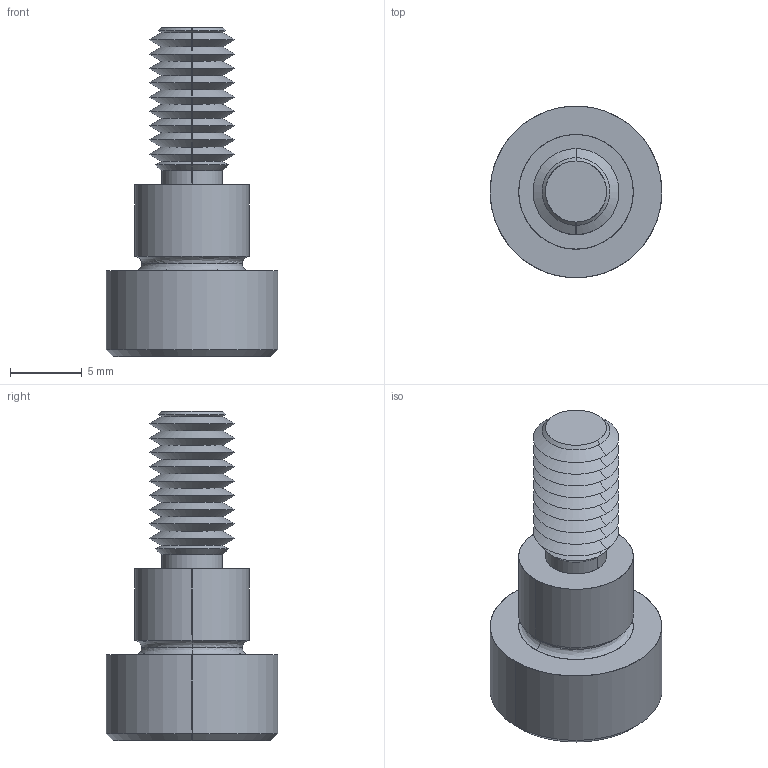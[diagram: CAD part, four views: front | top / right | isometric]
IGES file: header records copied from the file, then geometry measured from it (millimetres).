
Start section: SolidWorks IGES file using analytic representation for surfaces
Global section: file name: C:\Users\IanO\Documents\Temp Folder\GENERAL\SCREW REVISION\P0130_v2\P0130.T5_v2_20220106_IGES\P0130.080-006-T5.igs; native system: SolidWorks 2019; preprocessor: SolidWorks 2019; author: IanO; date: 220106.223049; units: millimetre
Bounding box: 12 x 12 x 23 mm (x, y, z)
Surface area: 987 mm2 (no closed solid volume)
Topology: 0 solids, 0 shells, 80 faces, 580 edges, 578 vertices
Faces by surface type: revolution 60, bspline 20
